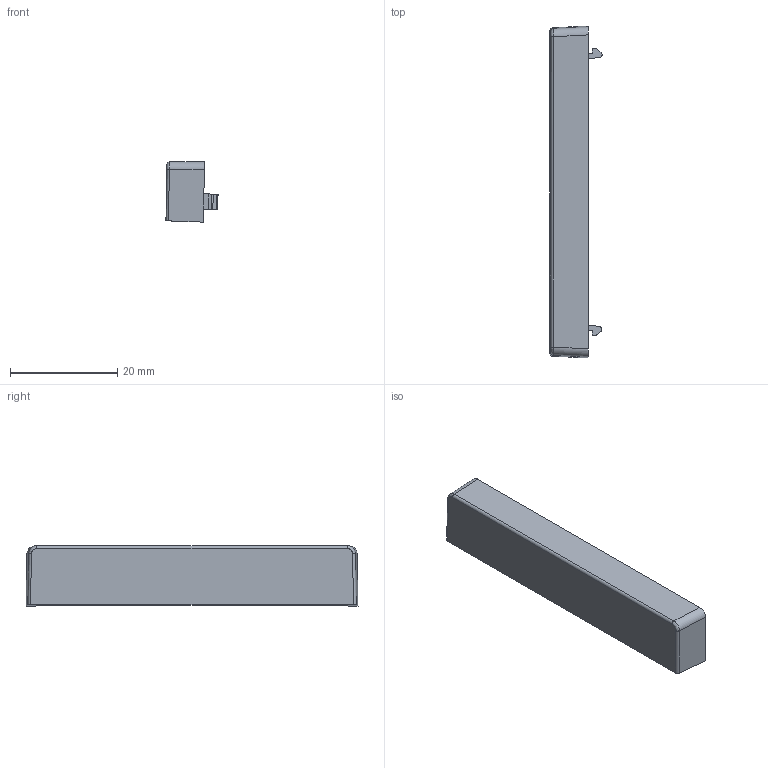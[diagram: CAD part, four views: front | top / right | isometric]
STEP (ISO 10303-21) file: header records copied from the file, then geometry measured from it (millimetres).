
FILE_DESCRIPTION(('Creo Elements/Direct Modeling STEP Export'),'2;1');
FILE_NAME('994_endcap_left_560785_spring_side.stp','2022-12-20T15:15:07',(''),(''),'Creo Elements/Direct Modeling STEP processor for AP214 (Solid Model)','Creo Elements/Direct Modeling 20.0C 26-Jan-2018 (C) Parametric Technology GmbH','');
FILE_SCHEMA(('AUTOMOTIVE_DESIGN { 1 0 10303 214 1 1 1 1 }'));
Length unit declared in the file: millimetre
Products named in the file (2): 994_endcap_left_560785_spring_side_special_luminaire
Assembly tree (1 placements, depth 2):
  994_endcap_left_560785_spring_side_special_luminaire
    994_endcap_left_560785_spring_side_special_luminaire
Bounding box: 9.73 x 62 x 11.25 mm (x, y, z)
Volume: 1935.5 mm3; surface area: 2546.7 mm2
Topology: 1 solids, 1 shells, 67 faces, 176 edges, 106 vertices
Faces by surface type: plane 33, cylinder 26, sphere 6, bspline 2
Entity records: 2206 total; most frequent: CARTESIAN_POINT 552, ORIENTED_EDGE 340, DIRECTION 336, EDGE_CURVE 170, VECTOR 116, LINE 116, AXIS2_PLACEMENT_3D 110, VERTEX_POINT 106
